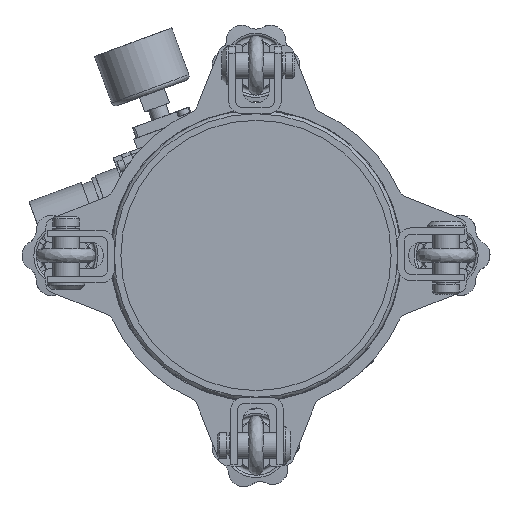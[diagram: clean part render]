
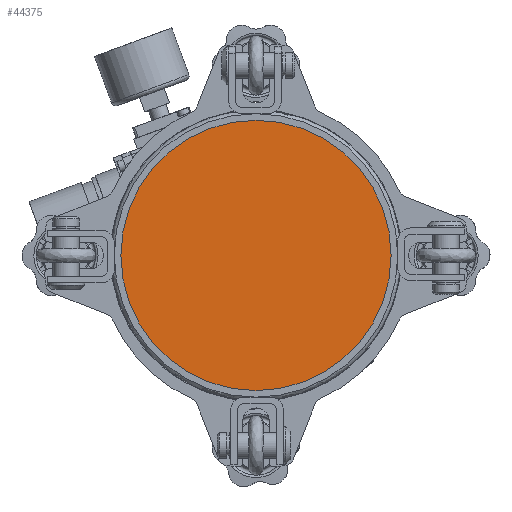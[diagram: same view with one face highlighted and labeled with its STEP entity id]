
A CAD part, front view. The second image highlights one B-rep face of the part: STEP entity #44375.
In plain terms, the highlighted planar face has unit normal (0, -1, 0).
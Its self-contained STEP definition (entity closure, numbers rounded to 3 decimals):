
#2017 = PLANE ( 'NONE',  #25104 ) ;
#10296 = CARTESIAN_POINT ( 'NONE',  ( 5.637, -106.395, 200. ) ) ;
#10349 = EDGE_CURVE ( 'NONE', #20356, #20356, #19199, .T. ) ;
#16253 = DIRECTION ( 'NONE',  ( 0., 0., -1. ) ) ;
#16336 = ORIENTED_EDGE ( 'NONE', *, *, #10349, .F. ) ;
#19199 = CIRCLE ( 'NONE', #55931, 61.5 ) ;
#20356 = VERTEX_POINT ( 'NONE', #34259 ) ;
#20803 = DIRECTION ( 'NONE',  ( 0., -1., 0. ) ) ;
#25048 = FACE_OUTER_BOUND ( 'NONE', #56556, .T. ) ;
#25104 = AXIS2_PLACEMENT_3D ( 'NONE', #56539, #20803, #16253 ) ;
#28475 = DIRECTION ( 'NONE',  ( 0., 0., -1. ) ) ;
#33008 = DIRECTION ( 'NONE',  ( 0., 1., 0. ) ) ;
#34259 = CARTESIAN_POINT ( 'NONE',  ( 5.637, -106.395, 138.5 ) ) ;
#44375 = ADVANCED_FACE ( 'NONE', ( #25048 ), #2017, .T. ) ;
#55931 = AXIS2_PLACEMENT_3D ( 'NONE', #10296, #33008, #28475 ) ;
#56539 = CARTESIAN_POINT ( 'NONE',  ( 5.637, -106.395, 200. ) ) ;
#56556 = EDGE_LOOP ( 'NONE', ( #16336 ) ) ;
